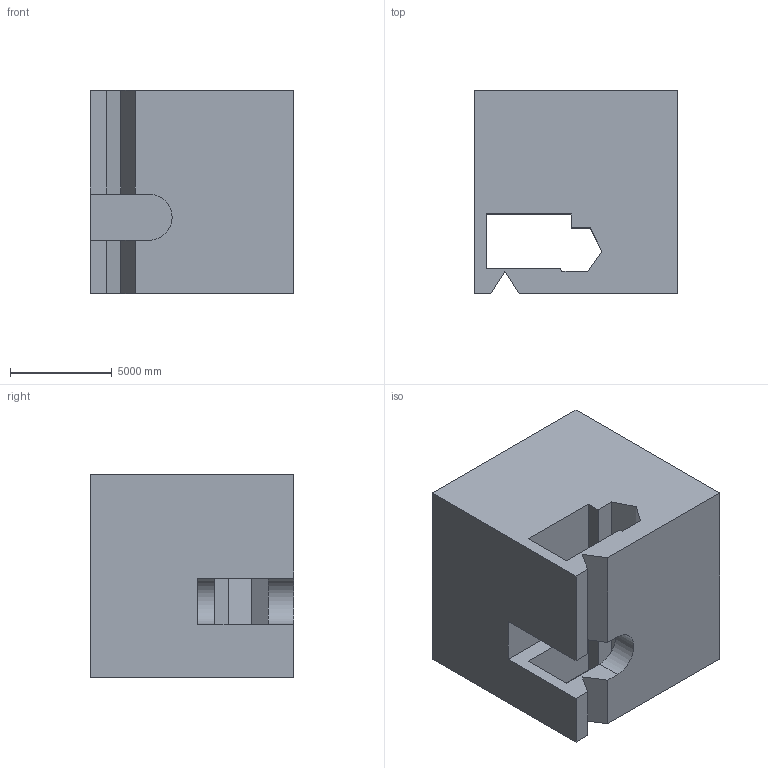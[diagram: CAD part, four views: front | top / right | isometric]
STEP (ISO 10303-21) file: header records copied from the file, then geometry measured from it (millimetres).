
FILE_DESCRIPTION (( 'STEP AP203' ), '1' );
FILE_NAME ('1319.STEP', '2022-08-18T13:44:50', ( 'user' ), ( '' ), 'SwSTEP 2.0', 'SolidWorks 2021', '' );
FILE_SCHEMA (( 'CONFIG_CONTROL_DESIGN' ));
Length unit declared in the file: centimetre
Products named in the file (1): 1319
Bounding box: 10000 x 10000 x 10000 mm (x, y, z)
Volume: 835458779200.5 mm3; surface area: 730087668.6 mm2
Topology: 1 solids, 1 shells, 27 faces, 81 edges, 54 vertices
Faces by surface type: plane 25, cylinder 2
Entity records: 984 total; most frequent: CARTESIAN_POINT 163, ORIENTED_EDGE 162, DIRECTION 141, EDGE_CURVE 81, VECTOR 77, LINE 77, VERTEX_POINT 54, AXIS2_PLACEMENT_3D 32
